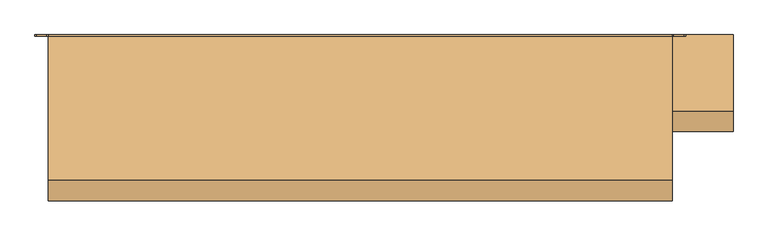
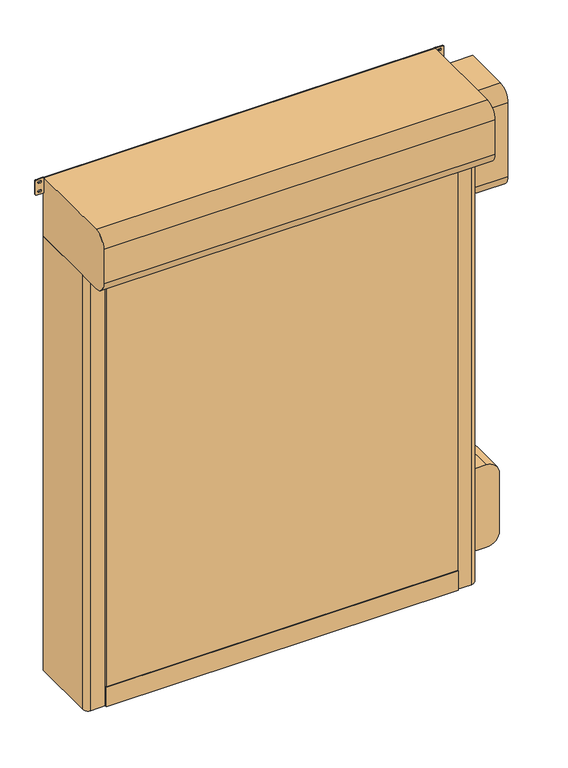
"""IFC4 building model written with IfcOpenShell, lengths in millimetres: door geometry, DO_WPB_Dynamicroll Frigo_Air_BMP : Dynamicroll Frigo2."""

from ifc_helpers import new_model, si_unit, point, frame, frame_2d, origin, origin_with_axes, place, context, project, spatial, polyline, circle_curve, trimmed, segment, composite_curve, outline, extrude, source, transform, mapped, element, save


def door_97182b1e(model_context):
    return source(origin(), model_context, "Body", "SweptSolid", [
        extrude(outline(polyline([(-1012.0, -421.5), (1012.0, -421.5), (1012.0, -428.5), (-1012.0, -428.5), (-1012.0, -421.5)])), frame((0.0, 0.0, 120.0), z_axis=(0.0, 0.0, 1.0), x_axis=(1.0, 0.0, 0.0)), (0.0, 0.0, 1.0), 2700.0),
        extrude(outline(polyline([(-1012.0, -419.5), (1012.0, -419.5), (1012.0, -430.5), (-1012.0, -430.5), (-1012.0, -419.5)])), origin_with_axes(), (0.0, 0.0, 1.0), 120.0),
        extrude(outline(composite_curve([segment(trimmed(circle_curve(frame_2d((1905.0, 1071.0)), 6.0), [point((1911.0, 1071.0))], [point((1899.0, 1071.0))], False, "CARTESIAN"), True, "CONTINUOUS"), segment(polyline([(1899.0, 1071.0), (1899.0, 1089.0)]), True, "CONTINUOUS"), segment(trimmed(circle_curve(frame_2d((1905.0, 1089.0)), 6.0), [point((1899.0, 1089.0))], [point((1911.0, 1089.0))], False, "CARTESIAN"), True, "CONTINUOUS"), segment(polyline([(1911.0, 1089.0), (1911.0, 1071.0)]), True, "CONTINUOUS")], self_intersect=False)), frame((0.0, -20.0, 0.0), z_axis=(0.0, 1.0, 0.0), x_axis=(0.0, 0.0, 1.0)), (0.0, 0.0, 1.0), 20.0),
        extrude(outline(composite_curve([segment(trimmed(circle_curve(frame_2d((1320.0, 1071.0)), 6.0), [point((1326.0, 1071.0))], [point((1314.0, 1071.0))], False, "CARTESIAN"), True, "CONTINUOUS"), segment(polyline([(1314.0, 1071.0), (1314.0, 1089.0)]), True, "CONTINUOUS"), segment(trimmed(circle_curve(frame_2d((1320.0, 1089.0)), 6.0), [point((1314.0, 1089.0))], [point((1326.0, 1089.0))], False, "CARTESIAN"), True, "CONTINUOUS"), segment(polyline([(1326.0, 1089.0), (1326.0, 1071.0)]), True, "CONTINUOUS")], self_intersect=False)), frame((0.0, -20.0, 0.0), z_axis=(0.0, 1.0, 0.0), x_axis=(0.0, 0.0, 1.0)), (0.0, 0.0, 1.0), 20.0),
        extrude(outline(composite_curve([segment(trimmed(circle_curve(frame_2d((735.0, 1071.0)), 6.0), [point((741.0, 1071.0))], [point((729.0, 1071.0))], False, "CARTESIAN"), True, "CONTINUOUS"), segment(polyline([(729.0, 1071.0), (729.0, 1089.0)]), True, "CONTINUOUS"), segment(trimmed(circle_curve(frame_2d((735.0, 1089.0)), 6.0), [point((729.0, 1089.0))], [point((741.0, 1089.0))], False, "CARTESIAN"), True, "CONTINUOUS"), segment(polyline([(741.0, 1089.0), (741.0, 1071.0)]), True, "CONTINUOUS")], self_intersect=False)), frame((0.0, -20.0, 0.0), z_axis=(0.0, 1.0, 0.0), x_axis=(0.0, 0.0, 1.0)), (0.0, 0.0, 1.0), 20.0),
        extrude(outline(composite_curve([segment(trimmed(circle_curve(frame_2d((2490.0, 1071.0)), 6.0), [point((2496.0, 1071.0))], [point((2484.0, 1071.0))], False, "CARTESIAN"), True, "CONTINUOUS"), segment(polyline([(2484.0, 1071.0), (2484.0, 1089.0)]), True, "CONTINUOUS"), segment(trimmed(circle_curve(frame_2d((2490.0, 1089.0)), 6.0), [point((2484.0, 1089.0))], [point((2496.0, 1089.0))], False, "CARTESIAN"), True, "CONTINUOUS"), segment(polyline([(2496.0, 1089.0), (2496.0, 1071.0)]), True, "CONTINUOUS")], self_intersect=False)), frame((0.0, -20.0, 0.0), z_axis=(0.0, 1.0, 0.0), x_axis=(0.0, 0.0, 1.0)), (0.0, 0.0, 1.0), 20.0),
        extrude(outline(composite_curve([segment(trimmed(circle_curve(frame_2d((150.0, 1071.0)), 6.0), [point((156.0, 1071.0))], [point((144.0, 1071.0))], False, "CARTESIAN"), True, "CONTINUOUS"), segment(polyline([(144.0, 1071.0), (144.0, 1089.0)]), True, "CONTINUOUS"), segment(trimmed(circle_curve(frame_2d((150.0, 1089.0)), 6.0), [point((144.0, 1089.0))], [point((156.0, 1089.0))], False, "CARTESIAN"), True, "CONTINUOUS"), segment(polyline([(156.0, 1089.0), (156.0, 1071.0)]), True, "CONTINUOUS")], self_intersect=False)), frame((0.0, -20.0, 0.0), z_axis=(0.0, 1.0, 0.0), x_axis=(0.0, 0.0, 1.0)), (0.0, 0.0, 1.0), 20.0),
        extrude(outline(composite_curve([segment(polyline([(1911.0, -1071.0), (1911.0, -1089.0)]), True, "CONTINUOUS"), segment(trimmed(circle_curve(frame_2d((1905.0, -1089.0)), 6.0), [point((1911.0, -1089.0))], [point((1899.0, -1089.0))], False, "CARTESIAN"), True, "CONTINUOUS"), segment(polyline([(1899.0, -1089.0), (1899.0, -1071.0)]), True, "CONTINUOUS"), segment(trimmed(circle_curve(frame_2d((1905.0, -1071.0)), 6.0), [point((1899.0, -1071.0))], [point((1911.0, -1071.0))], False, "CARTESIAN"), True, "CONTINUOUS")], self_intersect=False)), frame((0.0, -20.0, 0.0), z_axis=(0.0, 1.0, 0.0), x_axis=(0.0, 0.0, 1.0)), (0.0, 0.0, 1.0), 20.0),
        extrude(outline(composite_curve([segment(polyline([(1326.0, -1071.0), (1326.0, -1089.0)]), True, "CONTINUOUS"), segment(trimmed(circle_curve(frame_2d((1320.0, -1089.0)), 6.0), [point((1326.0, -1089.0))], [point((1314.0, -1089.0))], False, "CARTESIAN"), True, "CONTINUOUS"), segment(polyline([(1314.0, -1089.0), (1314.0, -1071.0)]), True, "CONTINUOUS"), segment(trimmed(circle_curve(frame_2d((1320.0, -1071.0)), 6.0), [point((1314.0, -1071.0))], [point((1326.0, -1071.0))], False, "CARTESIAN"), True, "CONTINUOUS")], self_intersect=False)), frame((0.0, -20.0, 0.0), z_axis=(0.0, 1.0, 0.0), x_axis=(0.0, 0.0, 1.0)), (0.0, 0.0, 1.0), 20.0),
        extrude(outline(composite_curve([segment(polyline([(741.0, -1071.0), (741.0, -1089.0)]), True, "CONTINUOUS"), segment(trimmed(circle_curve(frame_2d((735.0, -1089.0)), 6.0), [point((741.0, -1089.0))], [point((729.0, -1089.0))], False, "CARTESIAN"), True, "CONTINUOUS"), segment(polyline([(729.0, -1089.0), (729.0, -1071.0)]), True, "CONTINUOUS"), segment(trimmed(circle_curve(frame_2d((735.0, -1071.0)), 6.0), [point((729.0, -1071.0))], [point((741.0, -1071.0))], False, "CARTESIAN"), True, "CONTINUOUS")], self_intersect=False)), frame((0.0, -20.0, 0.0), z_axis=(0.0, 1.0, 0.0), x_axis=(0.0, 0.0, 1.0)), (0.0, 0.0, 1.0), 20.0),
        extrude(outline(composite_curve([segment(polyline([(2496.0, -1071.0), (2496.0, -1089.0)]), True, "CONTINUOUS"), segment(trimmed(circle_curve(frame_2d((2490.0, -1089.0)), 6.0), [point((2496.0, -1089.0))], [point((2484.0, -1089.0))], False, "CARTESIAN"), True, "CONTINUOUS"), segment(polyline([(2484.0, -1089.0), (2484.0, -1071.0)]), True, "CONTINUOUS"), segment(trimmed(circle_curve(frame_2d((2490.0, -1071.0)), 6.0), [point((2484.0, -1071.0))], [point((2496.0, -1071.0))], False, "CARTESIAN"), True, "CONTINUOUS")], self_intersect=False)), frame((0.0, -20.0, 0.0), z_axis=(0.0, 1.0, 0.0), x_axis=(0.0, 0.0, 1.0)), (0.0, 0.0, 1.0), 20.0),
        extrude(outline(composite_curve([segment(polyline([(156.0, -1071.0), (156.0, -1089.0)]), True, "CONTINUOUS"), segment(trimmed(circle_curve(frame_2d((150.0, -1089.0)), 6.0), [point((156.0, -1089.0))], [point((144.0, -1089.0))], False, "CARTESIAN"), True, "CONTINUOUS"), segment(polyline([(144.0, -1089.0), (144.0, -1071.0)]), True, "CONTINUOUS"), segment(trimmed(circle_curve(frame_2d((150.0, -1071.0)), 6.0), [point((144.0, -1071.0))], [point((156.0, -1071.0))], False, "CARTESIAN"), True, "CONTINUOUS")], self_intersect=False)), frame((0.0, -20.0, 0.0), z_axis=(0.0, 1.0, 0.0), x_axis=(0.0, 0.0, 1.0)), (0.0, 0.0, 1.0), 20.0),
        extrude(outline(polyline([(-1012.0, -221.5), (1012.0, -221.5), (1012.0, -228.5), (-1012.0, -228.5), (-1012.0, -221.5)])), frame((0.0, 0.0, 120.0), z_axis=(0.0, 0.0, 1.0), x_axis=(1.0, 0.0, 0.0)), (0.0, 0.0, 1.0), 2700.0),
        extrude(outline(polyline([(-1012.0, -219.5), (1012.0, -219.5), (1012.0, -230.5), (-1012.0, -230.5), (-1012.0, -219.5)])), origin_with_axes(), (0.0, 0.0, 1.0), 120.0),
        extrude(outline(composite_curve([segment(polyline([(0.0, 2875.0), (0.0, 2275.0), (-275.0, 2275.0)]), True, "CONTINUOUS"), segment(trimmed(circle_curve(frame_2d((-275.0, 2350.0)), 75.0), [point((-275.0, 2275.0))], [point((-350.0, 2350.0))], False, "CARTESIAN"), True, "CONTINUOUS"), segment(polyline([(-350.0, 2350.0), (-350.0, 2800.0)]), True, "CONTINUOUS"), segment(trimmed(circle_curve(frame_2d((-275.0, 2800.0)), 75.0), [point((-350.0, 2800.0))], [point((-275.0, 2875.0))], False, "CARTESIAN"), True, "CONTINUOUS"), segment(polyline([(-275.0, 2875.0), (0.0, 2875.0)]), True, "CONTINUOUS")], self_intersect=False)), frame((1125.0, 0.0, 0.0), z_axis=(1.0, 0.0, 0.0), x_axis=(0.0, 1.0, 0.0)), (0.0, 0.0, 1.0), 220.0),
        extrude(outline(composite_curve([segment(polyline([(-1125.0, 0.0), (-1015.0, 0.0), (-1015.0, -209.2857143), (-1035.0, -215.0), (-1000.0, -215.0), (-1000.0, -221.5), (-1020.0, -221.5), (-1020.0, -228.5), (-1000.0, -228.5), (-1000.0, -235.0), (-1035.0, -235.0), (-1035.0, -250.0), (-1005.0, -250.0), (-1005.0, -420.0), (-1095.0, -420.0)]), True, "CONTINUOUS"), segment(trimmed(circle_curve(frame_2d((-1095.0, -390.0)), 30.0), [point((-1095.0, -420.0))], [point((-1125.0, -390.0))], False, "CARTESIAN"), True, "CONTINUOUS"), segment(polyline([(-1125.0, -390.0), (-1125.0, 0.0)]), True, "CONTINUOUS")], self_intersect=False)), origin_with_axes(), (0.0, 0.0, 1.0), 2640.0),
        extrude(outline(composite_curve([segment(polyline([(1125.0, 0.0), (1125.0, -390.0)]), True, "CONTINUOUS"), segment(trimmed(circle_curve(frame_2d((1095.0, -390.0)), 30.0), [point((1125.0, -390.0))], [point((1095.0, -420.0))], False, "CARTESIAN"), True, "CONTINUOUS"), segment(polyline([(1095.0, -420.0), (1005.0, -420.0), (1005.0, -250.0), (1035.0, -250.0), (1035.0, -235.0), (1000.0, -235.0), (1000.0, -228.5), (1020.0, -228.5), (1020.0, -221.5), (1000.0, -221.5), (1000.0, -215.0), (1035.0, -215.0), (1015.0, -209.2857143), (1015.0, 0.0), (1125.0, 0.0)]), True, "CONTINUOUS")], self_intersect=False)), origin_with_axes(), (0.0, 0.0, 1.0), 2640.0),
        extrude(outline(composite_curve([segment(polyline([(600.0, 1250.0), (600.0, 1125.0), (100.0, 1125.0), (100.0, 1250.0)]), True, "CONTINUOUS"), segment(trimmed(circle_curve(frame_2d((175.0, 1250.0)), 75.0), [point((100.0, 1250.0))], [point((175.0, 1325.0))], False, "CARTESIAN"), True, "CONTINUOUS"), segment(polyline([(175.0, 1325.0), (525.0, 1325.0)]), True, "CONTINUOUS"), segment(trimmed(circle_curve(frame_2d((525.0, 1250.0)), 75.0), [point((525.0, 1325.0))], [point((600.0, 1250.0))], False, "CARTESIAN"), True, "CONTINUOUS")], self_intersect=False)), frame((0.0, -300.0, 0.0), z_axis=(0.0, 1.0, 0.0), x_axis=(0.0, 0.0, 1.0)), (0.0, 0.0, 1.0), 200.0),
        extrude(outline(composite_curve([segment(trimmed(circle_curve(frame_2d((2913.75, 1130.75)), 5.75), [point((2913.75, 1125.0))], [point((2908.0, 1130.75))], False, "CARTESIAN"), True, "CONTINUOUS"), segment(polyline([(2908.0, 1130.75), (2908.0, 1168.25)]), True, "CONTINUOUS"), segment(trimmed(circle_curve(frame_2d((2913.75, 1168.25)), 5.75), [point((2908.0, 1168.25))], [point((2913.75, 1174.0))], False, "CARTESIAN"), True, "CONTINUOUS"), segment(polyline([(2913.75, 1174.0), (2994.25, 1174.0)]), True, "CONTINUOUS"), segment(trimmed(circle_curve(frame_2d((2994.25, 1168.25)), 5.75), [point((2994.25, 1174.0))], [point((3000.0, 1168.25))], False, "CARTESIAN"), True, "CONTINUOUS"), segment(polyline([(3000.0, 1168.25), (3000.0, 1130.75)]), True, "CONTINUOUS"), segment(trimmed(circle_curve(frame_2d((2994.25, 1130.75)), 5.75), [point((3000.0, 1130.75))], [point((2994.25, 1125.0))], False, "CARTESIAN"), True, "CONTINUOUS"), segment(polyline([(2994.25, 1125.0), (2913.75, 1125.0)]), True, "CONTINUOUS")], self_intersect=False), holes=[composite_curve([segment(trimmed(circle_curve(frame_2d((2981.5, 1153.75)), 5.75), [point((2987.25, 1153.75))], [point((2975.75, 1153.75))], True, "CARTESIAN"), True, "CONTINUOUS"), segment(polyline([(2975.75, 1153.75), (2975.75, 1145.25)]), True, "CONTINUOUS"), segment(trimmed(circle_curve(frame_2d((2981.5, 1145.25)), 5.75), [point((2975.75, 1145.25))], [point((2987.25, 1145.25))], True, "CARTESIAN"), True, "CONTINUOUS"), segment(polyline([(2987.25, 1145.25), (2987.25, 1153.75)]), True, "CONTINUOUS")], self_intersect=False), composite_curve([segment(trimmed(circle_curve(frame_2d((2926.5, 1153.75)), 5.75), [point((2932.25, 1153.75))], [point((2920.75, 1153.75))], True, "CARTESIAN"), True, "CONTINUOUS"), segment(polyline([(2920.75, 1153.75), (2920.75, 1145.25)]), True, "CONTINUOUS"), segment(trimmed(circle_curve(frame_2d((2926.5, 1145.25)), 5.75), [point((2920.75, 1145.25))], [point((2932.25, 1145.25))], True, "CARTESIAN"), True, "CONTINUOUS"), segment(polyline([(2932.25, 1145.25), (2932.25, 1153.75)]), True, "CONTINUOUS")], self_intersect=False)]), frame((0.0, -5.0, 0.0), z_axis=(0.0, 1.0, 0.0), x_axis=(0.0, 0.0, 1.0)), (0.0, 0.0, 1.0), 5.0),
        extrude(outline(composite_curve([segment(trimmed(circle_curve(frame_2d((2913.75, -1168.25)), 5.75), [point((2913.75, -1174.0))], [point((2908.0, -1168.25))], False, "CARTESIAN"), True, "CONTINUOUS"), segment(polyline([(2908.0, -1168.25), (2908.0, -1130.75)]), True, "CONTINUOUS"), segment(trimmed(circle_curve(frame_2d((2913.75, -1130.75)), 5.75), [point((2908.0, -1130.75))], [point((2913.75, -1125.0))], False, "CARTESIAN"), True, "CONTINUOUS"), segment(polyline([(2913.75, -1125.0), (2994.25, -1125.0)]), True, "CONTINUOUS"), segment(trimmed(circle_curve(frame_2d((2994.25, -1130.75)), 5.75), [point((2994.25, -1125.0))], [point((3000.0, -1130.75))], False, "CARTESIAN"), True, "CONTINUOUS"), segment(polyline([(3000.0, -1130.75), (3000.0, -1168.25)]), True, "CONTINUOUS"), segment(trimmed(circle_curve(frame_2d((2994.25, -1168.25)), 5.75), [point((3000.0, -1168.25))], [point((2994.25, -1174.0))], False, "CARTESIAN"), True, "CONTINUOUS"), segment(polyline([(2994.25, -1174.0), (2913.75, -1174.0)]), True, "CONTINUOUS")], self_intersect=False), holes=[composite_curve([segment(trimmed(circle_curve(frame_2d((2981.5, -1145.25)), 5.75), [point((2987.25, -1145.25))], [point((2975.75, -1145.25))], True, "CARTESIAN"), True, "CONTINUOUS"), segment(polyline([(2975.75, -1145.25), (2975.75, -1153.75)]), True, "CONTINUOUS"), segment(trimmed(circle_curve(frame_2d((2981.5, -1153.75)), 5.75), [point((2975.75, -1153.75))], [point((2987.25, -1153.75))], True, "CARTESIAN"), True, "CONTINUOUS"), segment(polyline([(2987.25, -1153.75), (2987.25, -1145.25)]), True, "CONTINUOUS")], self_intersect=False), composite_curve([segment(trimmed(circle_curve(frame_2d((2926.5, -1145.25)), 5.75), [point((2932.25, -1145.25))], [point((2920.75, -1145.25))], True, "CARTESIAN"), True, "CONTINUOUS"), segment(polyline([(2920.75, -1145.25), (2920.75, -1153.75)]), True, "CONTINUOUS"), segment(trimmed(circle_curve(frame_2d((2926.5, -1153.75)), 5.75), [point((2920.75, -1153.75))], [point((2932.25, -1153.75))], True, "CARTESIAN"), True, "CONTINUOUS"), segment(polyline([(2932.25, -1153.75), (2932.25, -1145.25)]), True, "CONTINUOUS")], self_intersect=False)]), frame((0.0, -5.0, 0.0), z_axis=(0.0, 1.0, 0.0), x_axis=(0.0, 0.0, 1.0)), (0.0, 0.0, 1.0), 5.0),
        extrude(outline(composite_curve([segment(trimmed(circle_curve(frame_2d((-5.0, 2645.0)), 5.0), [point((0.0, 2645.0))], [point((-5.0, 2640.0))], False, "CARTESIAN"), True, "CONTINUOUS"), segment(polyline([(-5.0, 2640.0), (-525.0, 2640.0)]), True, "CONTINUOUS"), segment(trimmed(circle_curve(frame_2d((-525.0, 2715.0)), 75.0), [point((-525.0, 2640.0))], [point((-600.0, 2715.0))], False, "CARTESIAN"), True, "CONTINUOUS"), segment(polyline([(-600.0, 2715.0), (-600.0, 2925.0)]), True, "CONTINUOUS"), segment(trimmed(circle_curve(frame_2d((-525.0, 2925.0)), 75.0), [point((-600.0, 2925.0))], [point((-525.0, 3000.0))], False, "CARTESIAN"), True, "CONTINUOUS"), segment(polyline([(-525.0, 3000.0), (-5.0, 3000.0)]), True, "CONTINUOUS"), segment(trimmed(circle_curve(frame_2d((-5.0, 2995.0)), 5.0), [point((-5.0, 3000.0))], [point((0.0, 2995.0))], False, "CARTESIAN"), True, "CONTINUOUS"), segment(polyline([(0.0, 2995.0), (0.0, 2645.0)]), True, "CONTINUOUS")], self_intersect=False)), frame((-1125.0, 0.0, 0.0), z_axis=(1.0, 0.0, 0.0), x_axis=(0.0, 1.0, 0.0)), (0.0, 0.0, 1.0), 2250.0),
    ])


if __name__ == "__main__":
    model = new_model("IFC4")
    model_context = context("Model", 3, world=origin())
    ifc_project = project(units=[si_unit("LENGTHUNIT", "METRE", prefix="MILLI")], contexts=[model_context])
    site = spatial("IfcSite", under=ifc_project)
    building = spatial("IfcBuilding", under=site)
    placement = place(None, origin())
    door_shape = door_97182b1e(model_context)
    element("IfcDoor", 1, ObjectType="DO_WPB_Dynamicroll Frigo_Air_BMP : Dynamicroll Frigo2", at=placement, inside=building, context=model_context, shape_type="MappedRepresentation", body=[
        mapped(door_shape, transform((0.0, 0.0, 0.0), x_axis=(1.0, 0.0, 0.0), y_axis=(0.0, 1.0, 0.0), z_axis=(0.0, 0.0, 1.0))),
    ])
    save(model, "model.ifc")
